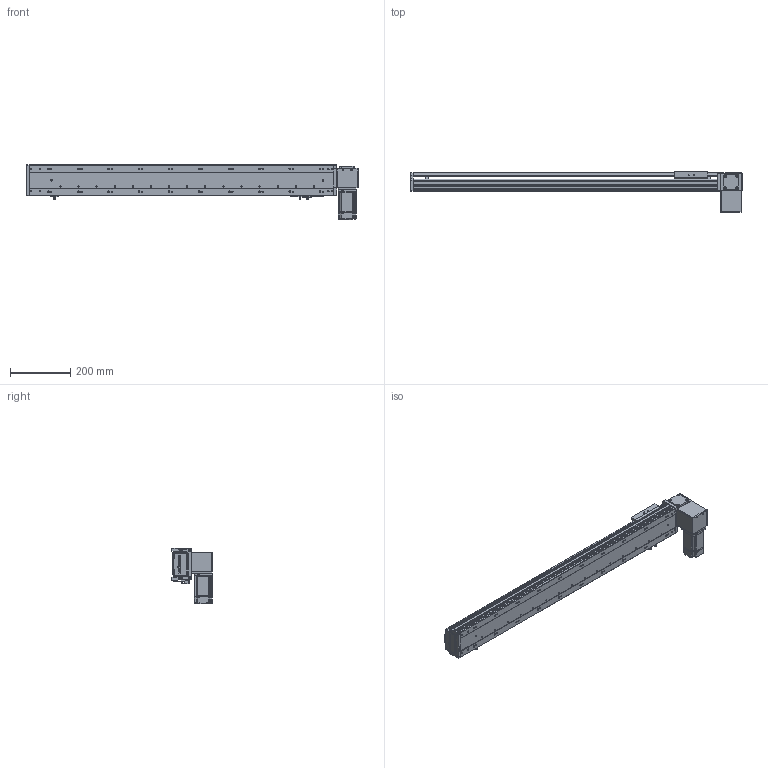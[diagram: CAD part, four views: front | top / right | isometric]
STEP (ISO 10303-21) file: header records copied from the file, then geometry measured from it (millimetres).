
FILE_DESCRIPTION (( 'STEP AP203' ), '1' );
FILE_NAME ('RY100-T-300-DL.SLDASM_800.step', '2024-04-24T01:11:13', ( '盈信电脑' ), ( '东莞市道滘镇水果街19号' ), 'SwSTEP 2.0', 'SolidWorks 2016', '' );
FILE_SCHEMA (( 'CONFIG_CONTROL_DESIGN' ));
Length unit declared in the file: millimetre
Products named in the file (16): 滅袉蝶18-10; RY100-T-300-DL.SLDASM_800; RY100-T翋肮祭謫粣; 覜茼ん672; RY100綴裔啣; RY100-T翋肮祭謫裔啣; RY100-T肮祭謫翋盓傅釱; RY100-T翋肮祭謫裔啣2; RY100-T粣創揤踡裔; RY100-T-300-RK倰第菁釱_800; RY100-T-300-RK倰第奻裔_800; RY80-T肮祭謫狟殏俋欶; 1; RY100-T左右折电机安装板; RY100俋离覜茼え; RY100-T肮祭謫臏賑輸
Assembly tree (18 placements, depth 2):
  RY100-T-300-DL.SLDASM_800
    RY100-T-300-RK倰第菁釱_800
    RY100-T-300-RK倰第奻裔_800
    RY100-T肮祭謫臏賑輸
    RY100綴裔啣
    覜茼ん672  x3
    RY100俋离覜茼え
    RY100-T翋肮祭謫粣
    RY100-T肮祭謫翋盓傅釱
    滅袉蝶18-10  x2
    RY100-T翋肮祭謫裔啣
    1
    RY100-T左右折电机安装板
    RY100-T粣創揤踡裔
    RY100-T翋肮祭謫裔啣2
    RY80-T肮祭謫狟殏俋欶
Bounding box: 1100 x 135.5 x 182.5 mm (x, y, z)
Volume: 2318782.3 mm3; surface area: 945640.6 mm2
Topology: 18 solids, 18 shells, 2285 faces, 6356 edges, 4128 vertices
Faces by surface type: plane 1223, cylinder 839, cone 145, bspline 78
Entity records: 74143 total; most frequent: CARTESIAN_POINT 18080, ORIENTED_EDGE 11544, DIRECTION 10984, EDGE_CURVE 5772, VERTEX_POINT 3796, LINE 3686, VECTOR 3686, AXIS2_PLACEMENT_3D 3649
